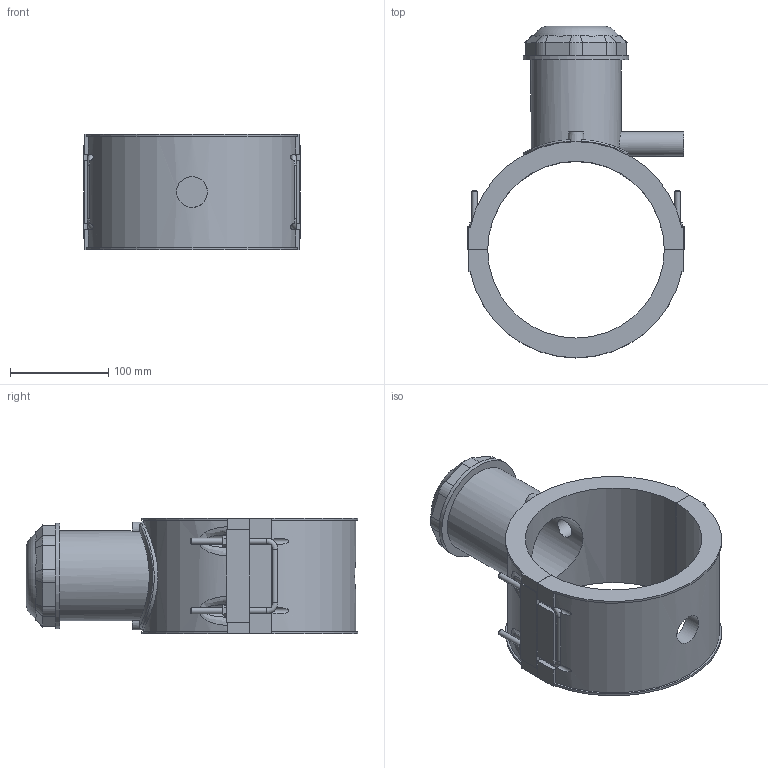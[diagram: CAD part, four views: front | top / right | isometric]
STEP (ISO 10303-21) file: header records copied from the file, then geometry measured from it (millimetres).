
FILE_DESCRIPTION(/* description */ ('PLASSON TAPPING SADDLE 180x25'),/* implementation_level */ '2;1');
FILE_NAME(/* name */ 'C:\Dropbox\KIMPROJECTS-Inventor\99-16-3568-Processing\ElectroFusion Fittings\24.01.19\496304\496304180025.ipt.stp',/* time_stamp */ '2019-01-24T12:43:30+02:00',/* author */ ('KIM'),/* organization */ (''),/* preprocessor_version */ 'ST-DEVELOPER v15.6',/* originating_system */ 'Autodesk Inventor 2015',/* authorisation */ '');
FILE_SCHEMA (('AUTOMOTIVE_DESIGN { 1 0 10303 214 3 1 1 }'));
Length unit declared in the file: millimetre
Products named in the file (1): 496304180025
Bounding box: 221 x 338.16 x 118 mm (x, y, z)
Volume: 1713225.9 mm3; surface area: 267146.1 mm2
Topology: 1 solids, 1 shells, 209 faces, 561 edges, 364 vertices
Faces by surface type: plane 127, cylinder 56, cone 14, bspline 7, torus 5
Full cylindrical faces by diameter (mm): 6 x8, 20 x1, 25 x1, 31.36 x1, 75.6 x1, 91.8 x1, 108 x1
Entity records: 8091 total; most frequent: CARTESIAN_POINT 2998, ORIENTED_EDGE 1102, DIRECTION 965, EDGE_CURVE 543, VERTEX_POINT 361, AXIS2_PLACEMENT_3D 328, LINE 309, VECTOR 309
